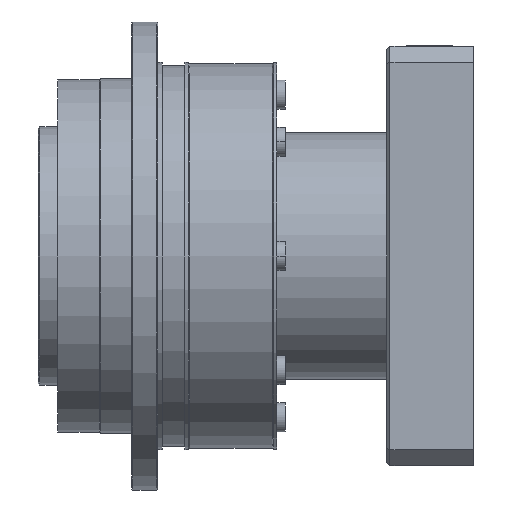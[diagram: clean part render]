
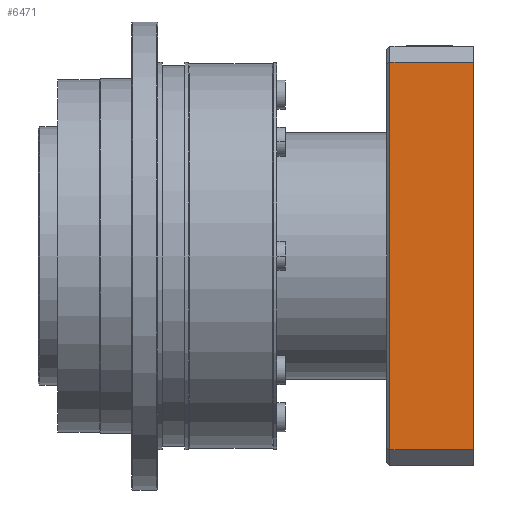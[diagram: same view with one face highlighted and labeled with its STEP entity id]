
A CAD part, left-side view. The second image highlights one B-rep face of the part: STEP entity #6471.
In plain terms, the highlighted planar face has unit normal (-1, 0, 0).
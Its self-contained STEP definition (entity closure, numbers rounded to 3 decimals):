
#1366 = VERTEX_POINT ( 'NONE', #7550 ) ;
#1422 = DIRECTION ( 'NONE',  ( 0., 0., -1. ) ) ;
#1810 = CARTESIAN_POINT ( 'NONE',  ( -121.937, -31.53, 65. ) ) ;
#1820 = LINE ( 'NONE', #4240, #20799 ) ;
#2603 = LINE ( 'NONE', #9637, #20977 ) ;
#2903 = PLANE ( 'NONE',  #8956 ) ;
#3343 = CARTESIAN_POINT ( 'NONE',  ( -121.937, -5.53, -65. ) ) ;
#3852 = ORIENTED_EDGE ( 'NONE', *, *, #19851, .F. ) ;
#3868 = FACE_OUTER_BOUND ( 'NONE', #18807, .T. ) ;
#4007 = DIRECTION ( 'NONE',  ( 0., -1., 0. ) ) ;
#4240 = CARTESIAN_POINT ( 'NONE',  ( -121.937, -4.53, -60. ) ) ;
#4372 = VERTEX_POINT ( 'NONE', #12374 ) ;
#6471 = ADVANCED_FACE ( 'NONE', ( #3868 ), #2903, .F. ) ;
#7458 = LINE ( 'NONE', #3343, #18069 ) ;
#7550 = CARTESIAN_POINT ( 'NONE',  ( -121.937, -5.53, 60. ) ) ;
#7859 = EDGE_CURVE ( 'NONE', #1366, #11559, #7458, .T. ) ;
#8956 = AXIS2_PLACEMENT_3D ( 'NONE', #22570, #21369, #12245 ) ;
#9457 = DIRECTION ( 'NONE',  ( 0., -1., 0. ) ) ;
#9637 = CARTESIAN_POINT ( 'NONE',  ( -121.937, -4.53, 60. ) ) ;
#10070 = LINE ( 'NONE', #1810, #18702 ) ;
#11208 = CARTESIAN_POINT ( 'NONE',  ( -121.937, -5.53, -60. ) ) ;
#11559 = VERTEX_POINT ( 'NONE', #11208 ) ;
#12245 = DIRECTION ( 'NONE',  ( 0., 0., -1. ) ) ;
#12374 = CARTESIAN_POINT ( 'NONE',  ( -121.937, -31.53, -60. ) ) ;
#14454 = EDGE_CURVE ( 'NONE', #11559, #4372, #1820, .T. ) ;
#14979 = ORIENTED_EDGE ( 'NONE', *, *, #7859, .T. ) ;
#17518 = EDGE_CURVE ( 'NONE', #1366, #22992, #2603, .T. ) ;
#18069 = VECTOR ( 'NONE', #1422, 1000. ) ;
#18482 = DIRECTION ( 'NONE',  ( 0., 0., -1. ) ) ;
#18702 = VECTOR ( 'NONE', #18482, 1000. ) ;
#18807 = EDGE_LOOP ( 'NONE', ( #14979, #19537, #3852, #21094 ) ) ;
#19537 = ORIENTED_EDGE ( 'NONE', *, *, #14454, .T. ) ;
#19851 = EDGE_CURVE ( 'NONE', #22992, #4372, #10070, .T. ) ;
#20121 = CARTESIAN_POINT ( 'NONE',  ( -121.937, -31.53, 60. ) ) ;
#20799 = VECTOR ( 'NONE', #9457, 1000. ) ;
#20977 = VECTOR ( 'NONE', #4007, 1000. ) ;
#21094 = ORIENTED_EDGE ( 'NONE', *, *, #17518, .F. ) ;
#21369 = DIRECTION ( 'NONE',  ( 1., 0., 0. ) ) ;
#22570 = CARTESIAN_POINT ( 'NONE',  ( -121.937, -4.53, 65. ) ) ;
#22992 = VERTEX_POINT ( 'NONE', #20121 ) ;
